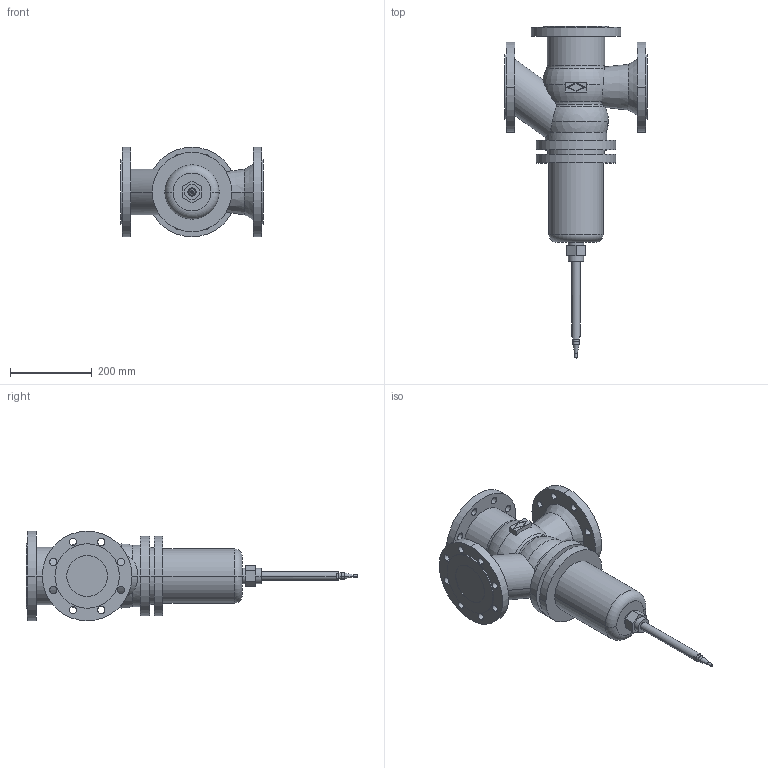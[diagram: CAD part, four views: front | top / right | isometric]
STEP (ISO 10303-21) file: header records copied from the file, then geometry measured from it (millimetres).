
FILE_DESCRIPTION(('CoCreate Modeling STEP Export'),'2;1');
FILE_NAME('c000004795.stp','2011-09-23T12:31:38',(''),(''),'CoCreate Modeling STEP processor for AP214 (Solid Model)','CoCreate Modeling 17.0 01-Apr-2010 (C) Parametric Technology GmbH','');
FILE_SCHEMA(('AUTOMOTIVE_DESIGN { 1 0 10303 214 1 1 1 1 }'));
Length unit declared in the file: millimetre
Products named in the file (1): 1
Bounding box: 350 x 814.44 x 220 mm (x, y, z)
Volume: 13071250.5 mm3; surface area: 625808 mm2
Topology: 1 solids, 1 shells, 164 faces, 419 edges, 273 vertices
Faces by surface type: cylinder 90, plane 52, torus 12, cone 6, sphere 4
Entity records: 5876 total; most frequent: CARTESIAN_POINT 929, ORIENTED_EDGE 830, DIRECTION 614, EDGE_CURVE 415, VERTEX_POINT 273, EDGE_LOOP 232, AXIS2_PLACEMENT_3D 226, PRESENTATION_STYLE_ASSIGNMENT 171
